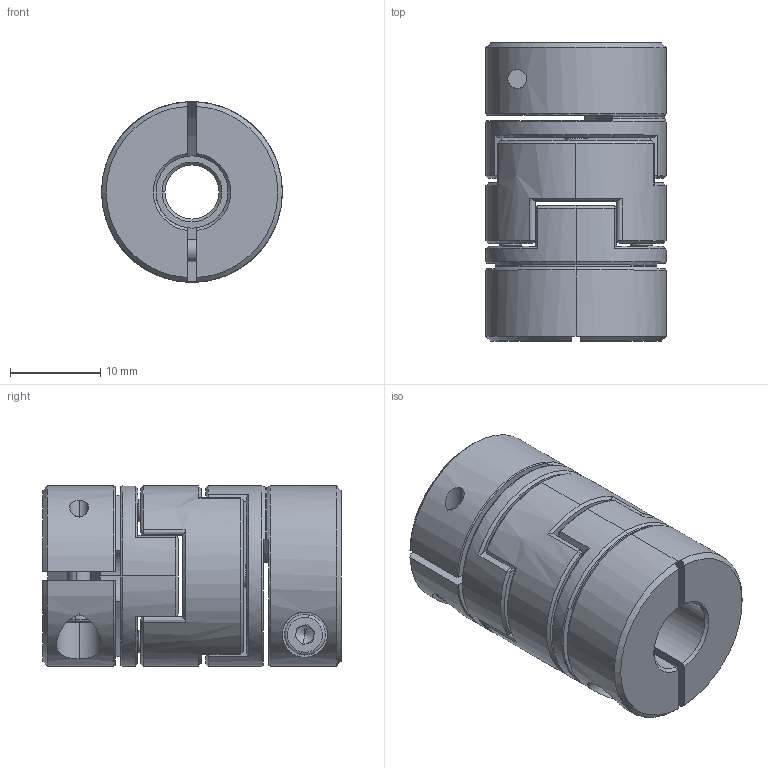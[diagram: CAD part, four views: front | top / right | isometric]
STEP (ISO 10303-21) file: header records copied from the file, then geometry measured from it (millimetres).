
FILE_DESCRIPTION (( 'STEP AP203' ), '1' );
FILE_NAME ('LZ-B-D20L33-6-8.STEP', '2021-10-29T05:38:00', ( '' ), ( '' ), 'SwSTEP 2.0', 'SolidWorks 2018', '' );
FILE_SCHEMA (( 'CONFIG_CONTROL_DESIGN' ));
Length unit declared in the file: millimetre
Products named in the file (1): LZ-B-D20L33-6-8
Bounding box: 20 x 33 x 20 mm (x, y, z)
Volume: 8259.3 mm3; surface area: 6103.5 mm2
Topology: 3 solids, 3 shells, 249 faces, 638 edges, 404 vertices
Faces by surface type: plane 113, cylinder 64, cone 42, bspline 26, torus 4
Entity records: 10323 total; most frequent: CARTESIAN_POINT 4472, ORIENTED_EDGE 1268, DIRECTION 1124, EDGE_CURVE 634, AXIS2_PLACEMENT_3D 434, VERTEX_POINT 404, EDGE_LOOP 276, VECTOR 256
